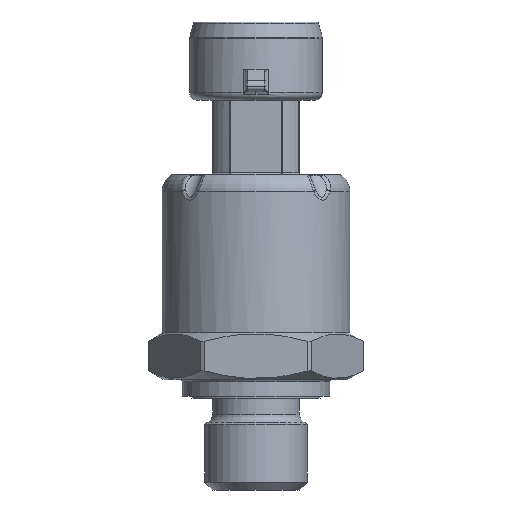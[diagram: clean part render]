
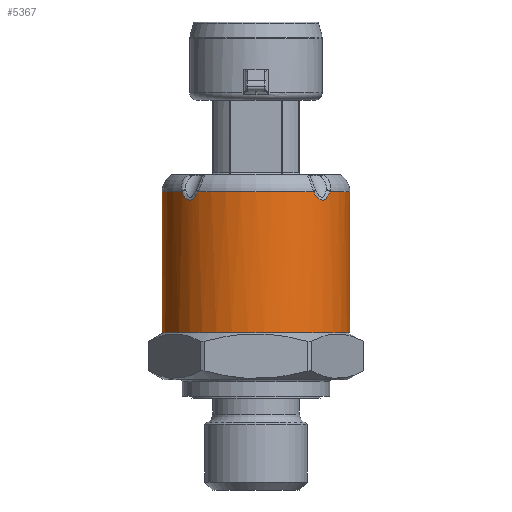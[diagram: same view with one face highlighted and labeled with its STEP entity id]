
A CAD part, front view. The second image highlights one B-rep face of the part: STEP entity #5367.
In plain terms, the highlighted cylindrical face has radius 12 mm (diameter 24 mm), a full revolution.
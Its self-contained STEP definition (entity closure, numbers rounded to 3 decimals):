
#192=CYLINDRICAL_SURFACE('',#6049,12.);
#444=LINE('',#11860,#695);
#695=VECTOR('',#7607,12.);
#1099=FACE_OUTER_BOUND('',#1446,.T.);
#1446=EDGE_LOOP('',(#4870,#4871,#4872,#4873,#4874,#4875,#4876,#4877,#4878,
#4879,#4880,#4881));
#1744=CIRCLE('',#6036,12.);
#1749=CIRCLE('',#6043,12.);
#1754=CIRCLE('',#6050,12.);
#1755=CIRCLE('',#6051,12.);
#1756=CIRCLE('',#6052,12.);
#2000=B_SPLINE_CURVE_WITH_KNOTS('',3,(#11691,#11692,#11693,#11694,#11695,
#11696,#11697,#11698,#11699,#11700),.UNSPECIFIED.,.F.,.F.,(4,1,1,1,1,1,
1,4),(0.,0.053,0.106,0.159,0.213,
0.266,0.319,0.372),.UNSPECIFIED.);
#2005=B_SPLINE_CURVE_WITH_KNOTS('',3,(#11802,#11803,#11804,#11805,#11806,
#11807,#11808,#11809,#11810,#11811,#11812,#11813,#11814,#11815,#11816,#11817,
#11818,#11819,#11820,#11821,#11822,#11823,#11824,#11825,#11826,#11827,#11828,
#11829),.UNSPECIFIED.,.F.,.F.,(4,3,3,3,3,3,3,3,3,4),(0.,0.029,
0.053,0.08,0.106,0.133,
0.157,0.159,0.177,0.186),
 .UNSPECIFIED.);
#2006=B_SPLINE_CURVE_WITH_KNOTS('',3,(#11832,#11833,#11834,#11835,#11836,
#11837,#11838,#11839,#11840,#11841),.UNSPECIFIED.,.F.,.F.,(4,1,1,1,1,1,
1,4),(0.,0.053,0.106,0.159,0.213,
0.266,0.319,0.372),.UNSPECIFIED.);
#2007=B_SPLINE_CURVE_WITH_KNOTS('',3,(#11842,#11843,#11844,#11845,#11846,
#11847,#11848,#11849,#11850,#11851),.UNSPECIFIED.,.F.,.F.,(4,1,1,1,1,1,
1,4),(0.,0.053,0.106,0.159,
0.213,0.266,0.319,0.372),
 .UNSPECIFIED.);
#2008=B_SPLINE_CURVE_WITH_KNOTS('',3,(#11852,#11853,#11854,#11855,#11856,
#11857,#11858),.UNSPECIFIED.,.F.,.F.,(4,1,1,1,4),(0.186,0.213,
0.266,0.292,0.372),.UNSPECIFIED.);
#2481=VERTEX_POINT('',#11099);
#2484=VERTEX_POINT('',#11268);
#2485=VERTEX_POINT('',#11277);
#2490=VERTEX_POINT('',#11502);
#2491=VERTEX_POINT('',#11511);
#2492=VERTEX_POINT('',#11544);
#2495=VERTEX_POINT('',#11621);
#2498=VERTEX_POINT('',#11800);
#2499=VERTEX_POINT('',#11801);
#2500=VERTEX_POINT('',#11859);
#3272=EDGE_CURVE('',#2484,#2485,#1744,.T.);
#3284=EDGE_CURVE('',#2490,#2491,#1749,.T.);
#3291=EDGE_CURVE('',#2492,#2495,#2000,.T.);
#3297=EDGE_CURVE('',#2498,#2499,#2005,.T.);
#3298=EDGE_CURVE('',#2498,#2495,#1754,.T.);
#3299=EDGE_CURVE('',#2492,#2481,#1755,.T.);
#3300=EDGE_CURVE('',#2484,#2481,#2006,.T.);
#3301=EDGE_CURVE('',#2490,#2485,#2007,.T.);
#3302=EDGE_CURVE('',#2499,#2491,#2008,.T.);
#3303=EDGE_CURVE('',#2499,#2500,#444,.T.);
#3304=EDGE_CURVE('',#2500,#2500,#1756,.T.);
#4870=ORIENTED_EDGE('',*,*,#3297,.F.);
#4871=ORIENTED_EDGE('',*,*,#3298,.T.);
#4872=ORIENTED_EDGE('',*,*,#3291,.F.);
#4873=ORIENTED_EDGE('',*,*,#3299,.T.);
#4874=ORIENTED_EDGE('',*,*,#3300,.F.);
#4875=ORIENTED_EDGE('',*,*,#3272,.T.);
#4876=ORIENTED_EDGE('',*,*,#3301,.F.);
#4877=ORIENTED_EDGE('',*,*,#3284,.T.);
#4878=ORIENTED_EDGE('',*,*,#3302,.F.);
#4879=ORIENTED_EDGE('',*,*,#3303,.T.);
#4880=ORIENTED_EDGE('',*,*,#3304,.T.);
#4881=ORIENTED_EDGE('',*,*,#3303,.F.);
#5367=ADVANCED_FACE('',(#1099),#192,.T.);
#6036=AXIS2_PLACEMENT_3D('',#11284,#7575,#7576);
#6043=AXIS2_PLACEMENT_3D('',#11518,#7589,#7590);
#6049=AXIS2_PLACEMENT_3D('',#11799,#7601,#7602);
#6050=AXIS2_PLACEMENT_3D('',#11830,#7603,#7604);
#6051=AXIS2_PLACEMENT_3D('',#11831,#7605,#7606);
#6052=AXIS2_PLACEMENT_3D('',#11861,#7608,#7609);
#7575=DIRECTION('center_axis',(0.,0.,-1.));
#7576=DIRECTION('ref_axis',(0.707,-0.707,0.));
#7589=DIRECTION('center_axis',(0.,0.,-1.));
#7590=DIRECTION('ref_axis',(0.707,-0.707,0.));
#7601=DIRECTION('center_axis',(0.,0.,1.));
#7602=DIRECTION('ref_axis',(0.707,-0.707,0.));
#7603=DIRECTION('center_axis',(0.,0.,-1.));
#7604=DIRECTION('ref_axis',(0.707,-0.707,0.));
#7605=DIRECTION('center_axis',(0.,0.,-1.));
#7606=DIRECTION('ref_axis',(0.707,-0.707,0.));
#7607=DIRECTION('',(0.,0.,-1.));
#7608=DIRECTION('center_axis',(0.,0.,1.));
#7609=DIRECTION('ref_axis',(0.707,-0.707,0.));
#11099=CARTESIAN_POINT('',(9.481,-7.356,17.005));
#11268=CARTESIAN_POINT('',(7.356,-9.481,17.005));
#11277=CARTESIAN_POINT('',(-7.356,-9.481,17.005));
#11284=CARTESIAN_POINT('Origin',(0.,0.,17.005));
#11502=CARTESIAN_POINT('',(-9.481,-7.356,17.005));
#11511=CARTESIAN_POINT('',(-9.481,7.356,17.005));
#11518=CARTESIAN_POINT('Origin',(0.,0.,17.005));
#11544=CARTESIAN_POINT('',(9.481,7.356,17.005));
#11621=CARTESIAN_POINT('',(7.356,9.481,17.005));
#11691=CARTESIAN_POINT('Ctrl Pts',(9.481,7.356,17.005));
#11692=CARTESIAN_POINT('Ctrl Pts',(9.421,7.433,16.853));
#11693=CARTESIAN_POINT('Ctrl Pts',(9.289,7.6,16.56));
#11694=CARTESIAN_POINT('Ctrl Pts',(9.032,7.905,16.18));
#11695=CARTESIAN_POINT('Ctrl Pts',(8.693,8.278,15.919));
#11696=CARTESIAN_POINT('Ctrl Pts',(8.279,8.692,15.92));
#11697=CARTESIAN_POINT('Ctrl Pts',(7.905,9.032,16.181));
#11698=CARTESIAN_POINT('Ctrl Pts',(7.6,9.288,16.56));
#11699=CARTESIAN_POINT('Ctrl Pts',(7.433,9.421,16.853));
#11700=CARTESIAN_POINT('Ctrl Pts',(7.356,9.481,17.005));
#11799=CARTESIAN_POINT('Origin',(0.,0.,-1.));
#11800=CARTESIAN_POINT('',(-7.356,9.481,17.005));
#11801=CARTESIAN_POINT('',(-8.485,8.485,15.929));
#11802=CARTESIAN_POINT('Ctrl Pts',(-7.356,9.481,17.005));
#11803=CARTESIAN_POINT('Ctrl Pts',(-7.398,9.449,16.923));
#11804=CARTESIAN_POINT('Ctrl Pts',(-7.441,9.415,16.843));
#11805=CARTESIAN_POINT('Ctrl Pts',(-7.487,9.378,16.765));
#11806=CARTESIAN_POINT('Ctrl Pts',(-7.526,9.347,16.698));
#11807=CARTESIAN_POINT('Ctrl Pts',(-7.566,9.314,16.633));
#11808=CARTESIAN_POINT('Ctrl Pts',(-7.609,9.279,16.57));
#11809=CARTESIAN_POINT('Ctrl Pts',(-7.655,9.241,16.502));
#11810=CARTESIAN_POINT('Ctrl Pts',(-7.704,9.201,16.436));
#11811=CARTESIAN_POINT('Ctrl Pts',(-7.755,9.158,16.373));
#11812=CARTESIAN_POINT('Ctrl Pts',(-7.806,9.114,16.311));
#11813=CARTESIAN_POINT('Ctrl Pts',(-7.86,9.068,16.253));
#11814=CARTESIAN_POINT('Ctrl Pts',(-7.916,9.019,16.2));
#11815=CARTESIAN_POINT('Ctrl Pts',(-7.973,8.969,16.146));
#11816=CARTESIAN_POINT('Ctrl Pts',(-8.032,8.916,16.098));
#11817=CARTESIAN_POINT('Ctrl Pts',(-8.094,8.86,16.058));
#11818=CARTESIAN_POINT('Ctrl Pts',(-8.149,8.809,16.021));
#11819=CARTESIAN_POINT('Ctrl Pts',(-8.207,8.756,15.991));
#11820=CARTESIAN_POINT('Ctrl Pts',(-8.265,8.7,15.969));
#11821=CARTESIAN_POINT('Ctrl Pts',(-8.272,8.693,15.966));
#11822=CARTESIAN_POINT('Ctrl Pts',(-8.279,8.687,15.964));
#11823=CARTESIAN_POINT('Ctrl Pts',(-8.285,8.681,15.962));
#11824=CARTESIAN_POINT('Ctrl Pts',(-8.328,8.64,15.947));
#11825=CARTESIAN_POINT('Ctrl Pts',(-8.372,8.597,15.938));
#11826=CARTESIAN_POINT('Ctrl Pts',(-8.415,8.555,15.933));
#11827=CARTESIAN_POINT('Ctrl Pts',(-8.439,8.532,15.93));
#11828=CARTESIAN_POINT('Ctrl Pts',(-8.462,8.509,15.929));
#11829=CARTESIAN_POINT('Ctrl Pts',(-8.485,8.485,15.929));
#11830=CARTESIAN_POINT('Origin',(0.,0.,17.005));
#11831=CARTESIAN_POINT('Origin',(0.,0.,17.005));
#11832=CARTESIAN_POINT('Ctrl Pts',(7.356,-9.481,17.005));
#11833=CARTESIAN_POINT('Ctrl Pts',(7.433,-9.421,16.853));
#11834=CARTESIAN_POINT('Ctrl Pts',(7.6,-9.289,16.56));
#11835=CARTESIAN_POINT('Ctrl Pts',(7.905,-9.032,16.18));
#11836=CARTESIAN_POINT('Ctrl Pts',(8.278,-8.693,15.919));
#11837=CARTESIAN_POINT('Ctrl Pts',(8.692,-8.279,15.92));
#11838=CARTESIAN_POINT('Ctrl Pts',(9.032,-7.905,16.181));
#11839=CARTESIAN_POINT('Ctrl Pts',(9.288,-7.6,16.56));
#11840=CARTESIAN_POINT('Ctrl Pts',(9.421,-7.433,16.853));
#11841=CARTESIAN_POINT('Ctrl Pts',(9.481,-7.356,17.005));
#11842=CARTESIAN_POINT('Ctrl Pts',(-9.481,-7.356,17.005));
#11843=CARTESIAN_POINT('Ctrl Pts',(-9.421,-7.433,
16.853));
#11844=CARTESIAN_POINT('Ctrl Pts',(-9.289,-7.6,
16.56));
#11845=CARTESIAN_POINT('Ctrl Pts',(-9.032,-7.905,16.18));
#11846=CARTESIAN_POINT('Ctrl Pts',(-8.693,-8.278,
15.919));
#11847=CARTESIAN_POINT('Ctrl Pts',(-8.279,-8.692,15.92));
#11848=CARTESIAN_POINT('Ctrl Pts',(-7.905,-9.032,
16.181));
#11849=CARTESIAN_POINT('Ctrl Pts',(-7.6,-9.288,16.56));
#11850=CARTESIAN_POINT('Ctrl Pts',(-7.433,-9.421,
16.853));
#11851=CARTESIAN_POINT('Ctrl Pts',(-7.356,-9.481,
17.005));
#11852=CARTESIAN_POINT('Ctrl Pts',(-8.485,8.485,15.929));
#11853=CARTESIAN_POINT('Ctrl Pts',(-8.552,8.419,15.929));
#11854=CARTESIAN_POINT('Ctrl Pts',(-8.749,8.217,15.963));
#11855=CARTESIAN_POINT('Ctrl Pts',(-8.976,7.967,16.137));
#11856=CARTESIAN_POINT('Ctrl Pts',(-9.252,7.646,16.487));
#11857=CARTESIAN_POINT('Ctrl Pts',(-9.392,7.471,16.777));
#11858=CARTESIAN_POINT('Ctrl Pts',(-9.481,7.356,17.005));
#11859=CARTESIAN_POINT('',(-8.485,8.485,-1.));
#11860=CARTESIAN_POINT('',(-8.485,8.485,-1.));
#11861=CARTESIAN_POINT('Origin',(0.,0.,-1.));
